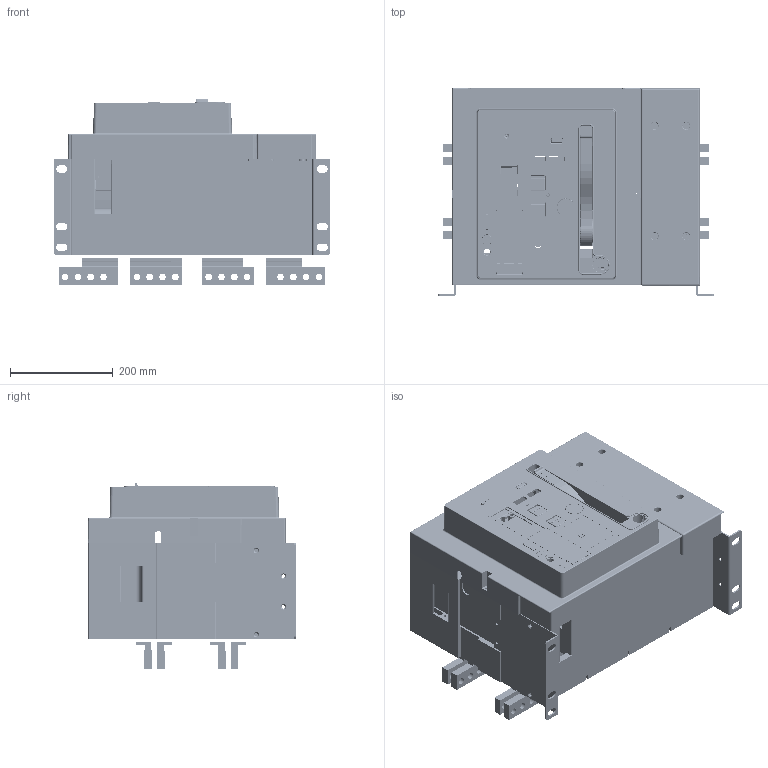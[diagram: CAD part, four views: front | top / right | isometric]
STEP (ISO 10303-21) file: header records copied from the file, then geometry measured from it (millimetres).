
FILE_DESCRIPTION((''),'2;1');
FILE_NAME('HG_17_B404H_FIX_ASM_ASM_ASM','2019-03-29T',('HHI'),(''),'PRO/ENGINEER BY PARAMETRIC TECHNOLOGY CORPORATION, 2012453','PRO/ENGINEER BY PARAMETRIC TECHNOLOGY CORPORATION, 2012453','');
FILE_SCHEMA(('CONFIG_CONTROL_DESIGN'));
Products named in the file (30): PRT0532; PRT0533; PRT0534; PRT0535; PRT0536; PRT0537; PRT0538; DR_COVER_SAMPLE_ASM_36_ASM_ASM; PRT0539; PRT0540; PRT0541; OCR_COVER_SAMPLE_ASM_36_ASM_ASM; PRT0542; PRT0543; COVER403_FIX_ASM_13_ASM_ASM; PRT0544; ASM0087_ASM; PRT0545; PRT0546; ASM0086_ASM; PRT0547; PRT0548; PRT0549; PRT0550; B404H_FIX_ASM_3_ASM_ASM; PRT0551; PRT0552; PRT0553; ASM0085_ASM; HG_17_B404H_FIX_ASM_ASM_ASM
Assembly tree (44 placements, depth 8):
  HG_17_B404H_FIX_ASM_ASM_ASM
    ASM0085_ASM
      B404H_FIX_ASM_3_ASM_ASM
        ASM0086_ASM
          PRT0532
          PRT0533
          PRT0534  x4
          ASM0087_ASM
            COVER403_FIX_ASM_13_ASM_ASM
              DR_COVER_SAMPLE_ASM_36_ASM_ASM
                PRT0535
                PRT0536
                PRT0537
                PRT0538
              OCR_COVER_SAMPLE_ASM_36_ASM_ASM
                PRT0539
                PRT0540
                PRT0541
              PRT0542
              PRT0543
            PRT0544
          PRT0545
          PRT0546
        PRT0547  x4
        PRT0548  x4
        PRT0549  x2
        PRT0550  x6
      PRT0551
      PRT0552
      PRT0553
Bounding box: 539.4 x 405.08 x 361.23 mm (x, y, z)
Volume: 9992717.8 mm3; surface area: 3613817 mm2
Topology: 37 solids, 43 shells, 8171 faces, 22850 edges, 14882 vertices
Faces by surface type: plane 5049, cylinder 2396, torus 275, extrusion 139, sphere 118, cone 117, bspline 77
Entity records: 254945 total; most frequent: CARTESIAN_POINT 51903, ORIENTED_EDGE 43108, DIRECTION 41279, EDGE_CURVE 21562, VECTOR 15601, LINE 15462, VERTEX_POINT 14102, AXIS2_PLACEMENT_3D 12839
